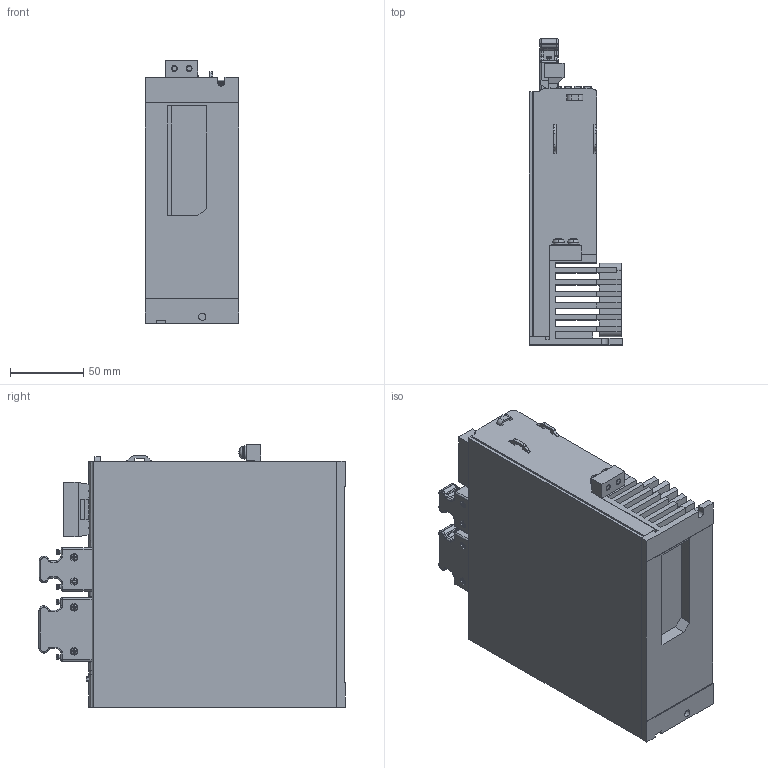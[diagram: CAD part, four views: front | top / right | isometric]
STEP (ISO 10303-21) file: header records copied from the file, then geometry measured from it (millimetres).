
FILE_DESCRIPTION((''),'2;1');
FILE_NAME('CP-1500W-NEW','2024-08-02T',('Administrator'),(''),'CREO PARAMETRIC BY PTC INC, 2017480','CREO PARAMETRIC BY PTC INC, 2017480','');
FILE_SCHEMA(('AUTOMOTIVE_DESIGN { 1 0 10303 214 1 1 1 1 }'));
Products named in the file (7): 1500W-CP-KE; DB-36_1_1; DB-14_1_1; GB9074_4-88-DIANPIAN_M4X12; E-7PIN-TOU_1; C-1500W-SRQ-JHB; CP-1500W-NEW
Assembly tree (7 placements, depth 2):
  CP-1500W-NEW
    1500W-CP-KE
    DB-36_1_1
    DB-14_1_1
    GB9074_4-88-DIANPIAN_M4X12  x2
    E-7PIN-TOU_1
    C-1500W-SRQ-JHB
Bounding box: 64 x 208.9 x 179.6 mm (x, y, z)
Volume: 1296298 mm3; surface area: 255670.8 mm2
Topology: 7 solids, 7 shells, 2047 faces, 5307 edges, 3467 vertices
Faces by surface type: plane 1522, cylinder 410, torus 46, extrusion 33, revolution 16, sphere 12, cone 4, bspline 4
Entity records: 74611 total; most frequent: CARTESIAN_POINT 12601, ORIENTED_EDGE 10462, DIRECTION 9954, EDGE_CURVE 5231, VECTOR 4100, LINE 4067, VERTEX_POINT 3423, PRESENTATION_STYLE_ASSIGNMENT 3289
